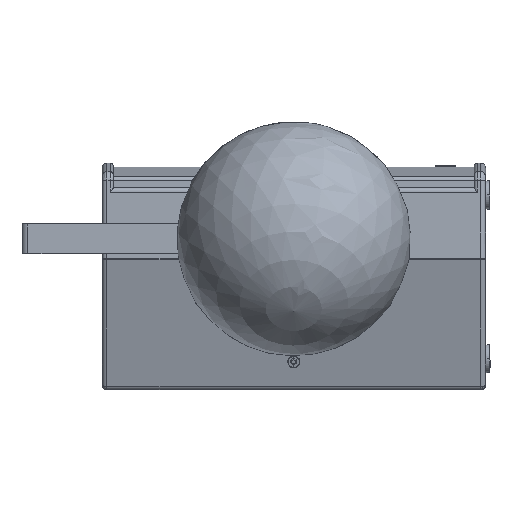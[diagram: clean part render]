
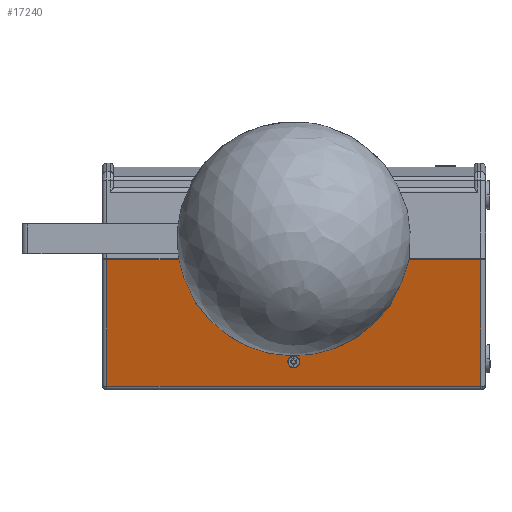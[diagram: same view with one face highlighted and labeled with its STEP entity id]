
A CAD part, left-side view. The second image highlights one B-rep face of the part: STEP entity #17240.
In plain terms, the highlighted planar face has unit normal (-0.966, 0, -0.259) as drawn and (-0.966, 0.259, 0) by its records, which use the part's own axes.
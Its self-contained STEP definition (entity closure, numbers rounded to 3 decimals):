
#7294 = CARTESIAN_POINT ( 'NONE',  ( 58.759, 189.277, 21.5 ) ) ;
#7409 = CARTESIAN_POINT ( 'NONE',  ( 13.112, 18.922, 21.5 ) ) ;
#16491 = VERTEX_POINT ( 'NONE', #25505 ) ;
#16493 = EDGE_CURVE ( 'NONE', #16494, #16491, #25504, .T. ) ;
#16494 = VERTEX_POINT ( 'NONE', #25499 ) ;
#17057 = VERTEX_POINT ( 'NONE', #26696 ) ;
#17059 = EDGE_CURVE ( 'NONE', #17057, #21631, #26695, .T. ) ;
#17215 = ORIENTED_EDGE ( 'NONE', *, *, #17059, .F. ) ;
#17216 = ORIENTED_EDGE ( 'NONE', *, *, #17217, .T. ) ;
#17217 = EDGE_CURVE ( 'NONE', #17057, #17218, #27161, .T. ) ;
#17218 = VERTEX_POINT ( 'NONE', #27157 ) ;
#17219 = ORIENTED_EDGE ( 'NONE', *, *, #17220, .T. ) ;
#17220 = EDGE_CURVE ( 'NONE', #17218, #21601, #27156, .T. ) ;
#17221 = ORIENTED_EDGE ( 'NONE', *, *, #17222, .T. ) ;
#17222 = EDGE_CURVE ( 'NONE', #21601, #21631, #27151, .T. ) ;
#17223 = EDGE_LOOP ( 'NONE', ( #17224, #17225 ) ) ;
#17224 = ORIENTED_EDGE ( 'NONE', *, *, #16493, .T. ) ;
#17225 = ORIENTED_EDGE ( 'NONE', *, *, #17226, .T. ) ;
#17226 = EDGE_CURVE ( 'NONE', #16491, #16494, #27208, .T. ) ;
#17240 = ADVANCED_FACE ( 'NONE', ( #27182, #27181 ), #27179, .T. ) ;
#21601 = VERTEX_POINT ( 'NONE', #7294 ) ;
#21631 = VERTEX_POINT ( 'NONE', #7409 ) ;
#25499 = CARTESIAN_POINT ( 'NONE',  ( 47.82, 148.455, 272.5 ) ) ;
#25500 = DIRECTION ( 'NONE',  ( -0.259, -0.966, 0. ) ) ;
#25501 = DIRECTION ( 'NONE',  ( 0.966, -0.259, 0. ) ) ;
#25502 = CARTESIAN_POINT ( 'NONE',  ( 49.956, 156.424, 272.5 ) ) ;
#25503 = AXIS2_PLACEMENT_3D ( 'NONE', #25502, #25501, #25500 ) ;
#25504 = CIRCLE ( 'NONE', #25503, 8.25 ) ;
#25505 = CARTESIAN_POINT ( 'NONE',  ( 52.091, 164.393, 272.5 ) ) ;
#26692 = DIRECTION ( 'NONE',  ( 0., 0., -1. ) ) ;
#26693 = VECTOR ( 'NONE', #26692, 1000. ) ;
#26694 = CARTESIAN_POINT ( 'NONE',  ( 13.112, 18.922, 30. ) ) ;
#26695 = LINE ( 'NONE', #26694, #26693 ) ;
#26696 = CARTESIAN_POINT ( 'NONE',  ( 13.112, 18.922, 523.5 ) ) ;
#27148 = DIRECTION ( 'NONE',  ( -0.259, -0.966, 0. ) ) ;
#27149 = VECTOR ( 'NONE', #27148, 1000. ) ;
#27150 = CARTESIAN_POINT ( 'NONE',  ( 60.049, 194.095, 21.5 ) ) ;
#27151 = LINE ( 'NONE', #27150, #27149 ) ;
#27152 = CARTESIAN_POINT ( 'NONE',  ( 49.956, 156.424, 272.5 ) ) ;
#27153 = DIRECTION ( 'NONE',  ( 0., 0., -1. ) ) ;
#27154 = VECTOR ( 'NONE', #27153, 1000. ) ;
#27155 = CARTESIAN_POINT ( 'NONE',  ( 58.759, 189.277, 30. ) ) ;
#27156 = LINE ( 'NONE', #27155, #27154 ) ;
#27157 = CARTESIAN_POINT ( 'NONE',  ( 58.759, 189.277, 523.5 ) ) ;
#27158 = DIRECTION ( 'NONE',  ( 0.259, 0.966, 0. ) ) ;
#27159 = VECTOR ( 'NONE', #27158, 1000. ) ;
#27160 = CARTESIAN_POINT ( 'NONE',  ( 60.049, 194.095, 523.5 ) ) ;
#27161 = LINE ( 'NONE', #27160, #27159 ) ;
#27178 = AXIS2_PLACEMENT_3D ( 'NONE', #27180, #27240, #27239 ) ;
#27179 = PLANE ( 'NONE',  #27178 ) ;
#27180 = CARTESIAN_POINT ( 'NONE',  ( 60.049, 194.095, 30. ) ) ;
#27181 = FACE_BOUND ( 'NONE', #17223, .T. ) ;
#27182 = FACE_OUTER_BOUND ( 'NONE', #28691, .T. ) ;
#27205 = DIRECTION ( 'NONE',  ( -0.259, -0.966, 0. ) ) ;
#27206 = DIRECTION ( 'NONE',  ( 0.966, -0.259, 0. ) ) ;
#27207 = AXIS2_PLACEMENT_3D ( 'NONE', #27152, #27206, #27205 ) ;
#27208 = CIRCLE ( 'NONE', #27207, 8.25 ) ;
#27239 = DIRECTION ( 'NONE',  ( -0.259, -0.966, 0. ) ) ;
#27240 = DIRECTION ( 'NONE',  ( -0.966, 0.259, 0. ) ) ;
#28691 = EDGE_LOOP ( 'NONE', ( #17215, #17216, #17219, #17221 ) ) ;
